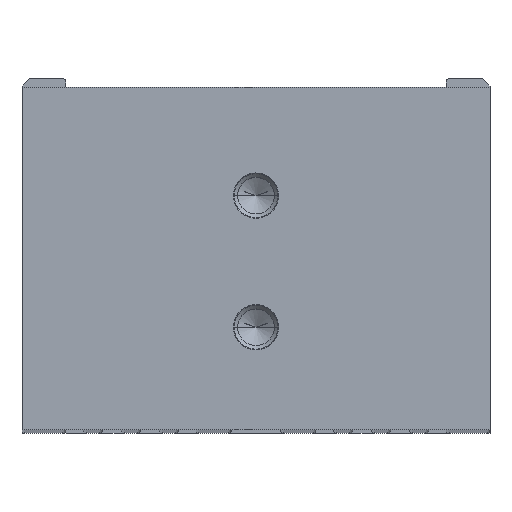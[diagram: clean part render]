
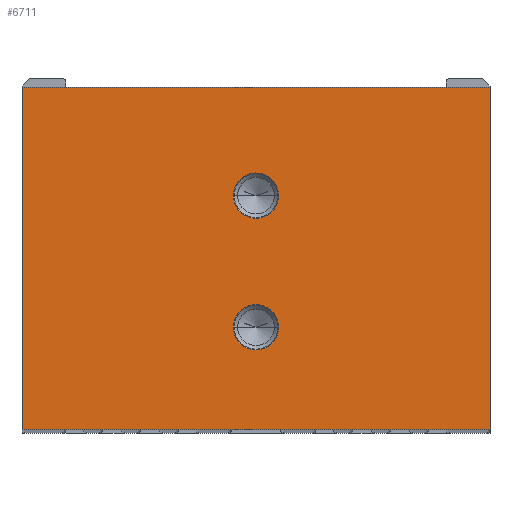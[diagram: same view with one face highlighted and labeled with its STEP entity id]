
A CAD part, top view. The second image highlights one B-rep face of the part: STEP entity #6711.
In plain terms, the highlighted planar face has unit normal (0, 0, 1).
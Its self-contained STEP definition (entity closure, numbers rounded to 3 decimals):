
#1380=DIRECTION('',(0.,-1.,0.));
#1381=VECTOR('',#1380,23.4);
#1382=CARTESIAN_POINT('',(-16.,11.402,72.));
#1383=LINE('',#1382,#1381);
#1384=DIRECTION('',(-1.,0.,0.));
#1385=VECTOR('',#1384,32.);
#1386=CARTESIAN_POINT('',(16.,11.402,72.));
#1387=LINE('',#1386,#1385);
#1388=DIRECTION('',(0.,1.,0.));
#1389=VECTOR('',#1388,23.4);
#1390=CARTESIAN_POINT('',(16.,-11.998,72.));
#1391=LINE('',#1390,#1389);
#1392=DIRECTION('',(1.,0.,0.));
#1393=VECTOR('',#1392,32.);
#1394=CARTESIAN_POINT('',(-16.,-11.998,72.));
#1395=LINE('',#1394,#1393);
#1396=CARTESIAN_POINT('',(0.,4.002,72.));
#1397=DIRECTION('',(0.,0.,-1.));
#1398=DIRECTION('',(1.,0.,0.));
#1399=AXIS2_PLACEMENT_3D('',#1396,#1397,#1398);
#1401=CARTESIAN_POINT('',(0.,4.002,
72.));
#1402=DIRECTION('',(0.,0.,-1.));
#1403=DIRECTION('',(-1.,0.,0.));
#1404=AXIS2_PLACEMENT_3D('',#1401,#1402,#1403);
#1406=CARTESIAN_POINT('',(0.,-4.998,72.));
#1407=DIRECTION('',(0.,0.,-1.));
#1408=DIRECTION('',(1.,0.,0.));
#1409=AXIS2_PLACEMENT_3D('',#1406,#1407,#1408);
#1411=CARTESIAN_POINT('',(0.,-4.998,72.));
#1412=DIRECTION('',(0.,0.,-1.));
#1413=DIRECTION('',(-1.,0.,0.));
#1414=AXIS2_PLACEMENT_3D('',#1411,#1412,#1413);
#3146=CARTESIAN_POINT('',(-16.,11.402,72.));
#3147=CARTESIAN_POINT('',(-16.,-11.998,72.));
#3148=VERTEX_POINT('',#3146);
#3149=VERTEX_POINT('',#3147);
#3150=CARTESIAN_POINT('',(16.,-11.998,72.));
#3151=VERTEX_POINT('',#3150);
#3152=CARTESIAN_POINT('',(16.,11.402,72.));
#3153=VERTEX_POINT('',#3152);
#4082=CARTESIAN_POINT('',(1.55,4.002,72.));
#4083=CARTESIAN_POINT('',(-1.55,4.002,72.));
#4084=VERTEX_POINT('',#4082);
#4085=VERTEX_POINT('',#4083);
#4090=CARTESIAN_POINT('',(1.55,-4.998,72.));
#4091=CARTESIAN_POINT('',(-1.55,-4.998,
72.));
#4092=VERTEX_POINT('',#4090);
#4093=VERTEX_POINT('',#4091);
#6688=CARTESIAN_POINT('',(0.,0.,72.));
#6689=DIRECTION('',(0.,0.,1.));
#6690=DIRECTION('',(1.,0.,0.));
#6691=AXIS2_PLACEMENT_3D('',#6688,#6689,#6690);
#6692=PLANE('',#6691);
#6693=ORIENTED_EDGE('',*,*,#4282,.F.);
#6694=ORIENTED_EDGE('',*,*,#4187,.F.);
#6695=ORIENTED_EDGE('',*,*,#5040,.F.);
#6696=ORIENTED_EDGE('',*,*,#6413,.F.);
#6697=EDGE_LOOP('',(#6693,#6694,#6695,#6696));
#6698=FACE_OUTER_BOUND('',#6697,.F.);
#6700=ORIENTED_EDGE('',*,*,#6699,.F.);
#6702=ORIENTED_EDGE('',*,*,#6701,.F.);
#6703=EDGE_LOOP('',(#6700,#6702));
#6704=FACE_BOUND('',#6703,.F.);
#6706=ORIENTED_EDGE('',*,*,#6705,.F.);
#6708=ORIENTED_EDGE('',*,*,#6707,.F.);
#6709=EDGE_LOOP('',(#6706,#6708));
#6710=FACE_BOUND('',#6709,.F.);
#1400=CIRCLE('',#1399,1.55);
#1405=CIRCLE('',#1404,1.55);
#1410=CIRCLE('',#1409,1.55);
#1415=CIRCLE('',#1414,1.55);
#4187=EDGE_CURVE('',#3153,#3148,#1387,.T.);
#4282=EDGE_CURVE('',#3148,#3149,#1383,.T.);
#5040=EDGE_CURVE('',#3151,#3153,#1391,.T.);
#6413=EDGE_CURVE('',#3149,#3151,#1395,.T.);
#6699=EDGE_CURVE('',#4084,#4085,#1400,.T.);
#6701=EDGE_CURVE('',#4085,#4084,#1405,.T.);
#6705=EDGE_CURVE('',#4092,#4093,#1410,.T.);
#6707=EDGE_CURVE('',#4093,#4092,#1415,.T.);
#6711=ADVANCED_FACE('',(#6698,#6704,#6710),#6692,.T.);
